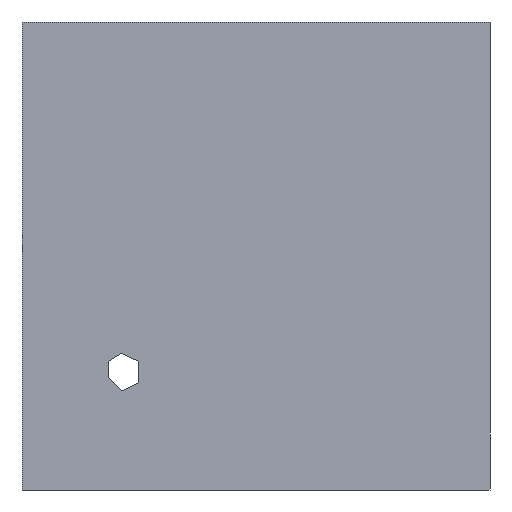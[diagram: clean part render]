
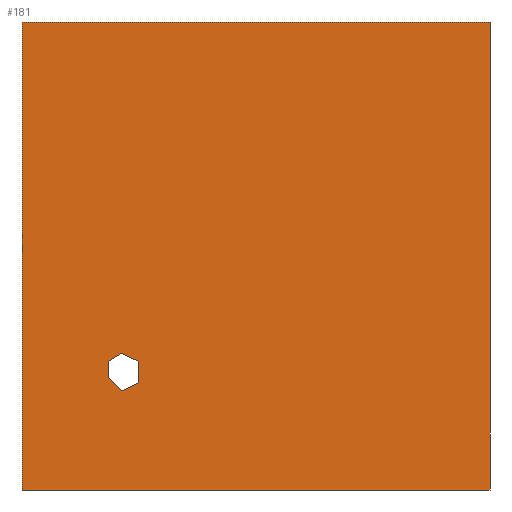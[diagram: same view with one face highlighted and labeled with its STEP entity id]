
A CAD part, front view. The second image highlights one B-rep face of the part: STEP entity #181.
In plain terms, the highlighted planar face has unit normal (0, -1, 0).
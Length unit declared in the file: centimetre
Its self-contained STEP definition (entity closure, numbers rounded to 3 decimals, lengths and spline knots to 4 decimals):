
#2 = EDGE_CURVE ( 'NONE', #166, #904, #704, .T. ) ;
#53 = DIRECTION ( 'NONE',  ( 0., 0., -1. ) ) ;
#68 = VECTOR ( 'NONE', #443, 100. ) ;
#70 = LINE ( 'NONE', #953, #396 ) ;
#124 = VERTEX_POINT ( 'NONE', #898 ) ;
#128 = VECTOR ( 'NONE', #823, 100. ) ;
#162 = CARTESIAN_POINT ( 'NONE',  ( 0., 0., 1000. ) ) ;
#166 = VERTEX_POINT ( 'NONE', #1141 ) ;
#172 = CARTESIAN_POINT ( 'NONE',  ( 0., 0., 1000. ) ) ;
#181 = ADVANCED_FACE ( 'NONE', ( #576, #228 ), #1025, .F. ) ;
#206 = ORIENTED_EDGE ( 'NONE', *, *, #1022, .T. ) ;
#209 = EDGE_CURVE ( 'NONE', #446, #927, #797, .T. ) ;
#228 = FACE_OUTER_BOUND ( 'NONE', #969, .T. ) ;
#244 = EDGE_CURVE ( 'NONE', #259, #1322, #941, .T. ) ;
#259 = VERTEX_POINT ( 'NONE', #172 ) ;
#272 = EDGE_CURVE ( 'NONE', #407, #124, #70, .T. ) ;
#276 = AXIS2_PLACEMENT_3D ( 'NONE', #808, #668, #1127 ) ;
#296 = VECTOR ( 'NONE', #1015, 100. ) ;
#340 = VECTOR ( 'NONE', #690, 100. ) ;
#382 = ORIENTED_EDGE ( 'NONE', *, *, #460, .T. ) ;
#383 = CARTESIAN_POINT ( 'NONE',  ( 0., 0., 0. ) ) ;
#392 = DIRECTION ( 'NONE',  ( -0.707, 0., 0.707 ) ) ;
#396 = VECTOR ( 'NONE', #392, 100. ) ;
#407 = VERTEX_POINT ( 'NONE', #850 ) ;
#443 = DIRECTION ( 'NONE',  ( 0.9, 0., -0.435 ) ) ;
#444 = ORIENTED_EDGE ( 'NONE', *, *, #1313, .T. ) ;
#446 = VERTEX_POINT ( 'NONE', #981 ) ;
#460 = EDGE_CURVE ( 'NONE', #1371, #446, #1235, .T. ) ;
#478 = DIRECTION ( 'NONE',  ( 0.847, 0., 0.531 ) ) ;
#492 = DIRECTION ( 'NONE',  ( 0., 0., 1. ) ) ;
#576 = FACE_BOUND ( 'NONE', #1140, .T. ) ;
#581 = CARTESIAN_POINT ( 'NONE',  ( 184.5853, 0., 274.7047 ) ) ;
#584 = DIRECTION ( 'NONE',  ( -0.9, 0., -0.435 ) ) ;
#619 = ORIENTED_EDGE ( 'NONE', *, *, #843, .T. ) ;
#626 = VERTEX_POINT ( 'NONE', #852 ) ;
#668 = DIRECTION ( 'NONE',  ( 0., 1., 0. ) ) ;
#687 = VECTOR ( 'NONE', #53, 100. ) ;
#690 = DIRECTION ( 'NONE',  ( 0., 0., -1. ) ) ;
#704 = LINE ( 'NONE', #1163, #296 ) ;
#729 = VECTOR ( 'NONE', #478, 100. ) ;
#782 = ORIENTED_EDGE ( 'NONE', *, *, #272, .T. ) ;
#797 = LINE ( 'NONE', #1010, #340 ) ;
#808 = CARTESIAN_POINT ( 'NONE',  ( 0., 0., 1000. ) ) ;
#811 = CARTESIAN_POINT ( 'NONE',  ( 249.1306, 0., 229.2176 ) ) ;
#819 = ORIENTED_EDGE ( 'NONE', *, *, #1224, .T. ) ;
#823 = DIRECTION ( 'NONE',  ( 1., 0., 0. ) ) ;
#843 = EDGE_CURVE ( 'NONE', #626, #1371, #912, .T. ) ;
#850 = CARTESIAN_POINT ( 'NONE',  ( 212.6956, 0., 211.5974 ) ) ;
#852 = CARTESIAN_POINT ( 'NONE',  ( 184.5853, 0., 274.7047 ) ) ;
#856 = EDGE_CURVE ( 'NONE', #259, #166, #919, .T. ) ;
#878 = CARTESIAN_POINT ( 'NONE',  ( 212.6956, 0., 292.3249 ) ) ;
#898 = CARTESIAN_POINT ( 'NONE',  ( 184.5853, 0., 239.7077 ) ) ;
#904 = VERTEX_POINT ( 'NONE', #1263 ) ;
#912 = LINE ( 'NONE', #581, #729 ) ;
#919 = LINE ( 'NONE', #1376, #1451 ) ;
#927 = VERTEX_POINT ( 'NONE', #811 ) ;
#936 = CARTESIAN_POINT ( 'NONE',  ( 0., 0., 0. ) ) ;
#937 = LINE ( 'NONE', #1276, #1115 ) ;
#941 = LINE ( 'NONE', #162, #687 ) ;
#953 = CARTESIAN_POINT ( 'NONE',  ( 212.6956, 0., 211.5974 ) ) ;
#969 = EDGE_LOOP ( 'NONE', ( #819, #1336, #1412, #1277 ) ) ;
#970 = CARTESIAN_POINT ( 'NONE',  ( 212.6956, 0., 292.3249 ) ) ;
#981 = CARTESIAN_POINT ( 'NONE',  ( 249.1306, 0., 274.7047 ) ) ;
#1010 = CARTESIAN_POINT ( 'NONE',  ( 249.1306, 0., 274.7047 ) ) ;
#1015 = DIRECTION ( 'NONE',  ( 0., 0., -1. ) ) ;
#1022 = EDGE_CURVE ( 'NONE', #927, #407, #937, .T. ) ;
#1025 = PLANE ( 'NONE',  #276 ) ;
#1050 = DIRECTION ( 'NONE',  ( 1., 0., 0. ) ) ;
#1115 = VECTOR ( 'NONE', #584, 100. ) ;
#1127 = DIRECTION ( 'NONE',  ( 0., 0., 1. ) ) ;
#1140 = EDGE_LOOP ( 'NONE', ( #382, #1291, #206, #782, #444, #619 ) ) ;
#1141 = CARTESIAN_POINT ( 'NONE',  ( 1000., 0., 1000. ) ) ;
#1163 = CARTESIAN_POINT ( 'NONE',  ( 1000., 0., 1000. ) ) ;
#1176 = LINE ( 'NONE', #1181, #1423 ) ;
#1181 = CARTESIAN_POINT ( 'NONE',  ( 184.5853, 0., 239.7077 ) ) ;
#1224 = EDGE_CURVE ( 'NONE', #1322, #904, #1401, .T. ) ;
#1235 = LINE ( 'NONE', #878, #68 ) ;
#1263 = CARTESIAN_POINT ( 'NONE',  ( 1000., 0., 0. ) ) ;
#1276 = CARTESIAN_POINT ( 'NONE',  ( 249.1306, 0., 229.2176 ) ) ;
#1277 = ORIENTED_EDGE ( 'NONE', *, *, #244, .T. ) ;
#1291 = ORIENTED_EDGE ( 'NONE', *, *, #209, .T. ) ;
#1313 = EDGE_CURVE ( 'NONE', #124, #626, #1176, .T. ) ;
#1322 = VERTEX_POINT ( 'NONE', #936 ) ;
#1336 = ORIENTED_EDGE ( 'NONE', *, *, #2, .F. ) ;
#1371 = VERTEX_POINT ( 'NONE', #970 ) ;
#1376 = CARTESIAN_POINT ( 'NONE',  ( 0., 0., 1000. ) ) ;
#1401 = LINE ( 'NONE', #383, #128 ) ;
#1412 = ORIENTED_EDGE ( 'NONE', *, *, #856, .F. ) ;
#1423 = VECTOR ( 'NONE', #492, 100. ) ;
#1451 = VECTOR ( 'NONE', #1050, 100. ) ;
